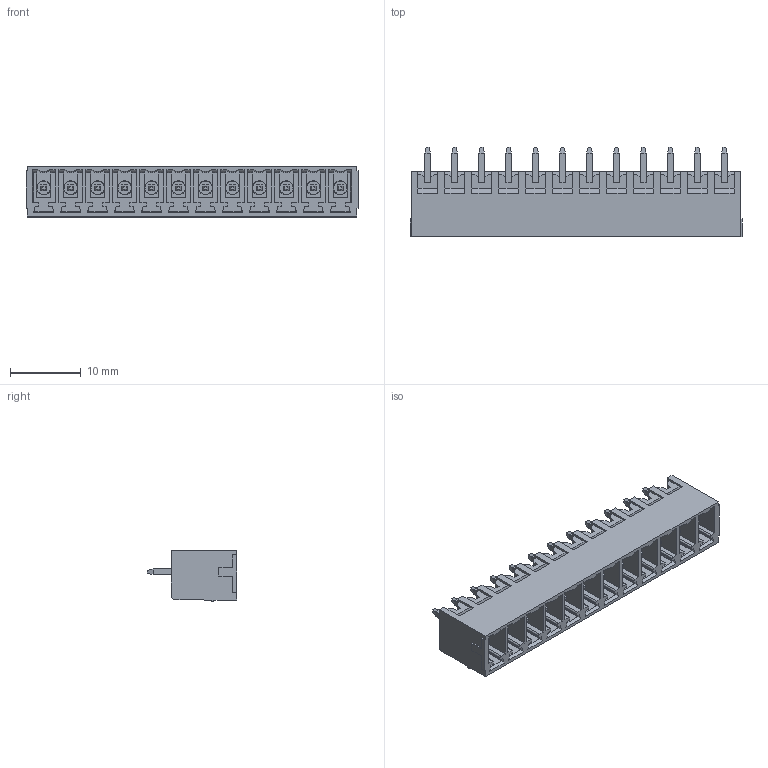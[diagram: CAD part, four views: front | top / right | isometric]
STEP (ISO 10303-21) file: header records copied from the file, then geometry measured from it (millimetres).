
FILE_DESCRIPTION(('FreeCAD Model'),'2;1');
FILE_NAME('Open CASCADE Shape Model','2023-05-24T16:04:35',('Author'),( ''),'Open CASCADE STEP processor 7.6','FreeCAD','Unknown');
FILE_SCHEMA(('AUTOMOTIVE_DESIGN { 1 0 10303 214 1 1 1 1 }'));
Products named in the file (1): BR7MC2-12
Bounding box: 46.91 x 12.6 x 7.2 mm (x, y, z)
Volume: 1410.5 mm3; surface area: 4262 mm2
Topology: 1 solids, 1 shells, 975 faces, 2595 edges, 1646 vertices
Faces by surface type: plane 854, cylinder 61, cone 36, sphere 24
Entity records: 64455 total; most frequent: CARTESIAN_POINT 12309, DIRECTION 9730, LINE 7181, VECTOR 7181, ORIENTED_EDGE 5142, PCURVE 5142, DEFINITIONAL_REPRESENTATION 5142, EDGE_CURVE 2571
